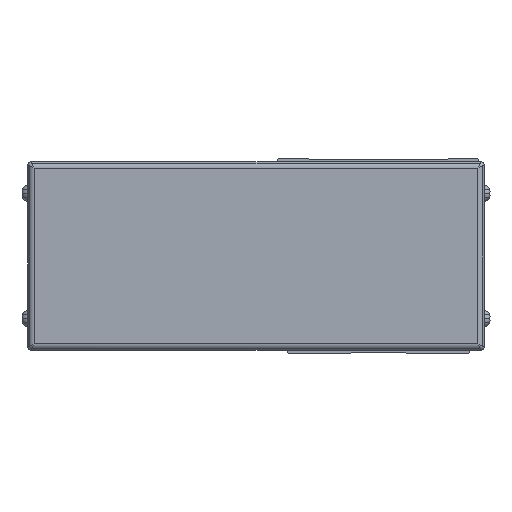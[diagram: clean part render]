
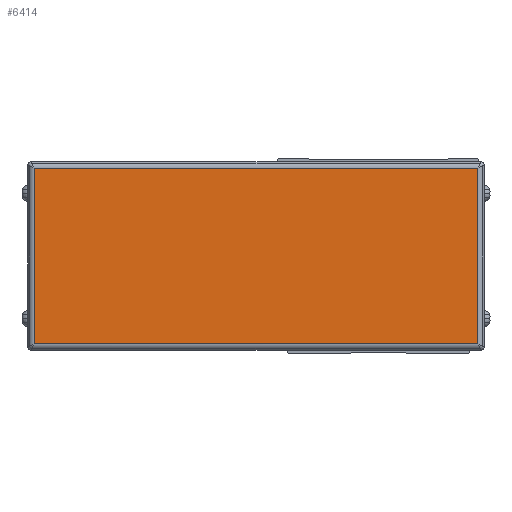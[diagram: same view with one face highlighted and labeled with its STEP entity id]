
A CAD part, front view. The second image highlights one B-rep face of the part: STEP entity #6414.
In plain terms, the highlighted planar face has unit normal (0, -1, 0).
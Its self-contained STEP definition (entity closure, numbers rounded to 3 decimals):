
#6414=ADVANCED_FACE('',(#13150),#13151,.F.);
#13150=FACE_OUTER_BOUND('',#21311,.T.);
#13151=PLANE('',#21312);
#21311=EDGE_LOOP('',(#39007,#39008,#39009,#39010));
#21312=AXIS2_PLACEMENT_3D('',#39011,#39012,#39013);
#39007=ORIENTED_EDGE('',*,*,#50466,.T.);
#39008=ORIENTED_EDGE('',*,*,#45777,.T.);
#39009=ORIENTED_EDGE('',*,*,#49218,.T.);
#39010=ORIENTED_EDGE('',*,*,#46859,.T.);
#39011=CARTESIAN_POINT('',(261.,-19.,-4.));
#39012=DIRECTION('',(0.,1.0,0.));
#39013=DIRECTION('',(0.,0.,1.0));
#45777=EDGE_CURVE('',#54564,#52660,#55426,.T.);
#46859=EDGE_CURVE('',#57199,#57197,#57200,.T.);
#49218=EDGE_CURVE('',#52660,#57199,#60672,.T.);
#50466=EDGE_CURVE('',#57197,#54564,#62271,.T.);
#52660=VERTEX_POINT('',#64936);
#54564=VERTEX_POINT('',#67528);
#55426=LINE('',#68749,#68750);
#57197=VERTEX_POINT('',#71231);
#57199=VERTEX_POINT('',#71233);
#57200=LINE('',#71234,#71235);
#60672=LINE('',#76301,#76302);
#62271=LINE('',#78630,#78631);
#64936=CARTESIAN_POINT('',(190.3,-19.,-32.));
#67528=CARTESIAN_POINT('',(190.3,-19.,24.));
#68749=CARTESIAN_POINT('',(190.3,-19.,-4.));
#68750=VECTOR('',#83265,10.0);
#71231=CARTESIAN_POINT('',(331.7,-19.,24.));
#71233=CARTESIAN_POINT('',(331.7,-19.,-32.));
#71234=CARTESIAN_POINT('',(331.7,-19.,-4.));
#71235=VECTOR('',#84661,10.0);
#76301=CARTESIAN_POINT('',(261.,-19.,-32.));
#76302=VECTOR('',#87326,10.0);
#78630=CARTESIAN_POINT('',(261.,-19.,24.));
#78631=VECTOR('',#88668,10.0);
#83265=DIRECTION('',(0.,0.,-1.0));
#84661=DIRECTION('',(0.,0.,1.0));
#87326=DIRECTION('',(1.0,0.,0.));
#88668=DIRECTION('',(-1.0,0.,0.));
